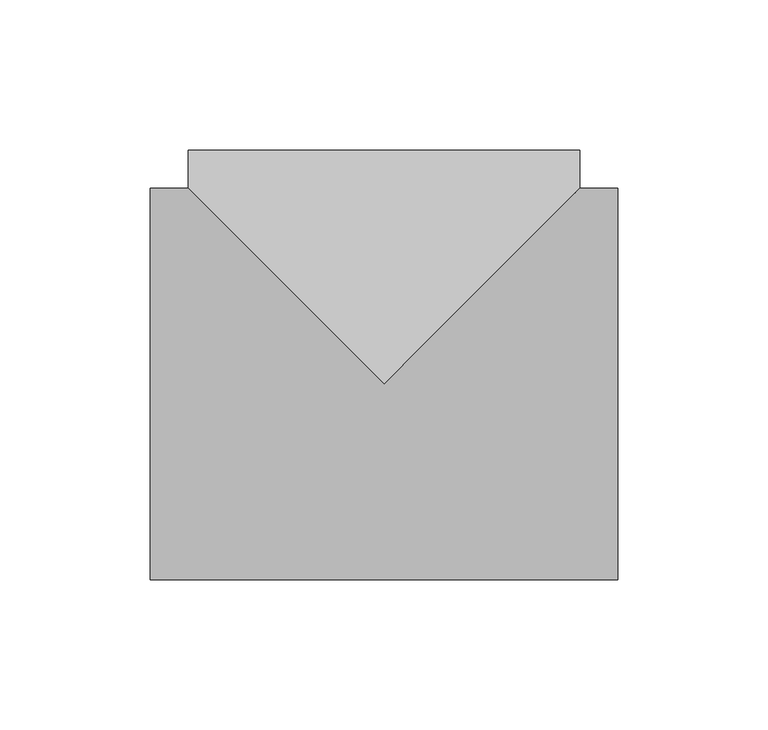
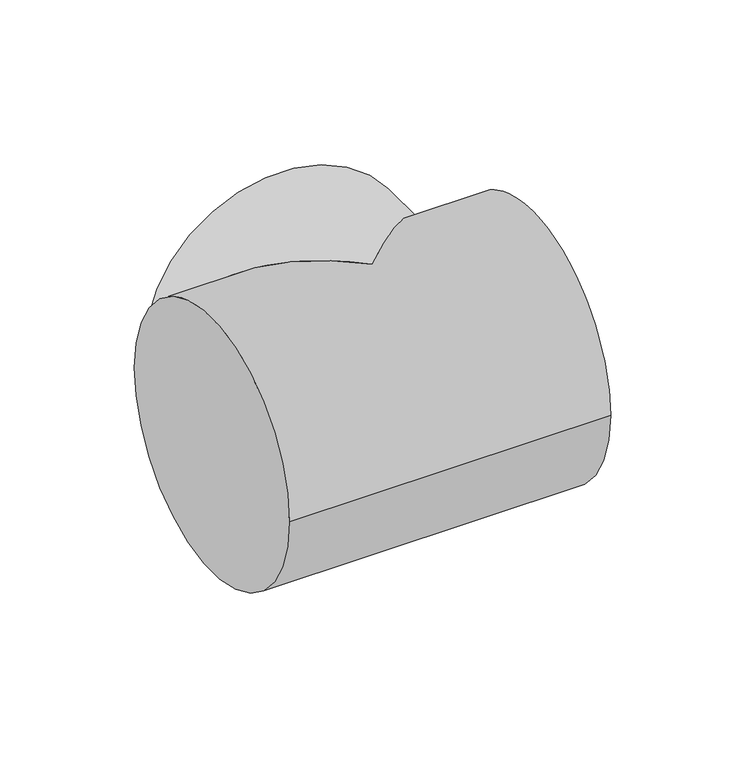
"""IFC4 building model written with IfcOpenShell, lengths in millimetres: pipe fitting geometry, M_Te - Genérica : Estándar."""

from ifc_helpers import new_model, si_unit, frame, origin, place, context, project, spatial, circle_curve, ellipse_curve, source, transform, mapped, element, save
from ifc_brep_helpers import plane_surface, cylinder_surface, advanced_brep


def pipe_fitting_e33a050c(model_context):
    return source(origin(), model_context, "Body", "AdvancedBrep", [
        advanced_brep(
        [(-77.7875, 65.0875, 0.0), (-77.7875, -65.0875, 0.0), (77.7875, 65.0875, 0.0), (77.7875, -65.0875, 0.0), (65.0940735, 65.0875, 0.0), (0.0, 0.0, 65.0875), (-65.0809271, 65.0875, 0.0), (0.0, 0.0, -65.0875), (-65.0796439, 77.7940728, 0.0), (65.0953554, 77.7809264, 0.0)],
        [
            (0, 1, circle_curve(frame((-77.7875, 0.0, 0.0), z_axis=(-1.0, 0.0, 0.0), x_axis=(0.0, -1.0, 0.0)), 65.0875)),
            (1, 0, circle_curve(frame((-77.7875, 0.0, 0.0), z_axis=(-1.0, 0.0, 0.0), x_axis=(0.0, -1.0, 0.0)), 65.0875)),
            (2, 3, circle_curve(frame((77.7875, 0.0, 0.0), z_axis=(1.0, 0.0, 0.0), x_axis=(0.0, -1.0, 0.0)), 65.0875)),
            (3, 2, circle_curve(frame((77.7875, 0.0, 0.0), z_axis=(1.0, 0.0, 0.0), x_axis=(0.0, -1.0, 0.0)), 65.0875)),
            (1, 3),
            (2, 4),
            (4, 5, ellipse_curve(frame((0.0, 0.0, 0.0), z_axis=(0.707071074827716, -0.7071424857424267, 0.0), x_axis=(-0.7071424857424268, -0.7070710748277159, 0.0)), 92.0522736, 65.0875)),
            (5, 6, ellipse_curve(frame((0.0, 0.0, 0.0), z_axis=(-0.7071424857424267, -0.707071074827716, 0.0), x_axis=(-0.7070710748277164, 0.7071424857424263, 0.0)), 92.0429776, 65.0875)),
            (6, 0),
            (6, 7, ellipse_curve(frame((0.0, 0.0, 0.0), z_axis=(-0.7071424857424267, -0.707071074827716, 0.0), x_axis=(-0.7070710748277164, 0.7071424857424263, 0.0)), 92.0429776, 65.0875)),
            (7, 4, ellipse_curve(frame((0.0, 0.0, 0.0), z_axis=(0.707071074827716, -0.7071424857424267, 0.0), x_axis=(-0.7071424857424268, -0.7070710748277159, 0.0)), 92.0522736, 65.0875)),
            (8, 9, circle_curve(frame((0.0078558, 77.7874996, 0.0), z_axis=(0.00010099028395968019, 0.9999999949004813, 0.0), x_axis=(0.9999999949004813, -0.00010099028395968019, 0.0)), 65.0875)),
            (9, 8, circle_curve(frame((0.0078558, 77.7874996, 0.0), z_axis=(0.00010099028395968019, 0.9999999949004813, 0.0), x_axis=(0.9999999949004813, -0.00010099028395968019, 0.0)), 65.0875)),
            (8, 6),
            (4, 9),
        ],
        [
            plane_surface(frame((-77.7875, 0.0, 0.0), z_axis=(-1.0, 0.0, 0.0), x_axis=(0.0, 0.0, 1.0))),
            plane_surface(frame((77.7875, 0.0, 0.0), z_axis=(1.0, 0.0, 0.0), x_axis=(0.0, 0.0, 1.0))),
            cylinder_surface(frame((-77.7875, 0.0, 0.0), z_axis=(-1.0, 0.0, 0.0), x_axis=(0.0, -1.0, 0.0)), 65.0875),
            plane_surface(frame((0.0078558, 77.7874996, 0.0), z_axis=(0.0001009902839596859, 0.9999999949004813, 0.0), x_axis=(0.0, 0.0, 1.0))),
            cylinder_surface(frame((0.0, 0.0, 0.0), z_axis=(-0.00010099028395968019, -0.9999999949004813, 0.0), x_axis=(0.9999999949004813, -0.00010099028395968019, 0.0)), 65.0875),
        ],
        [
            (0, [[1, 2]]),
            (1, [[3, 4]]),
            (2, [[5, -3, 6, 7, 8, 9, -2]]),
            (2, [[-9, 10, 11, -6, -4, -5, -1]]),
            (3, [[12, 13]]),
            (4, [[14, -8, -7, 15, -12]]),
            (4, [[-15, -11, -10, -14, -13]]),
        ],
    ),
    ])


if __name__ == "__main__":
    model = new_model("IFC4")
    model_context = context("Model", 3, world=origin())
    ifc_project = project(units=[si_unit("LENGTHUNIT", "METRE", prefix="MILLI")], contexts=[model_context])
    site = spatial("IfcSite", under=ifc_project)
    building = spatial("IfcBuilding", under=site)
    placement = place(None, origin())
    pipe_fitting_shape = pipe_fitting_e33a050c(model_context)
    element("IfcPipeFitting", 1, ObjectType="M_Te - Genérica : Estándar", at=placement, inside=building, context=model_context, shape_type="MappedRepresentation", body=[
        mapped(pipe_fitting_shape, transform((0.0, 0.0, 0.0), x_axis=(1.0, 0.0, 0.0), y_axis=(0.0, 1.0, 0.0), z_axis=(0.0, 0.0, 1.0))),
    ])
    save(model, "model.ifc")
